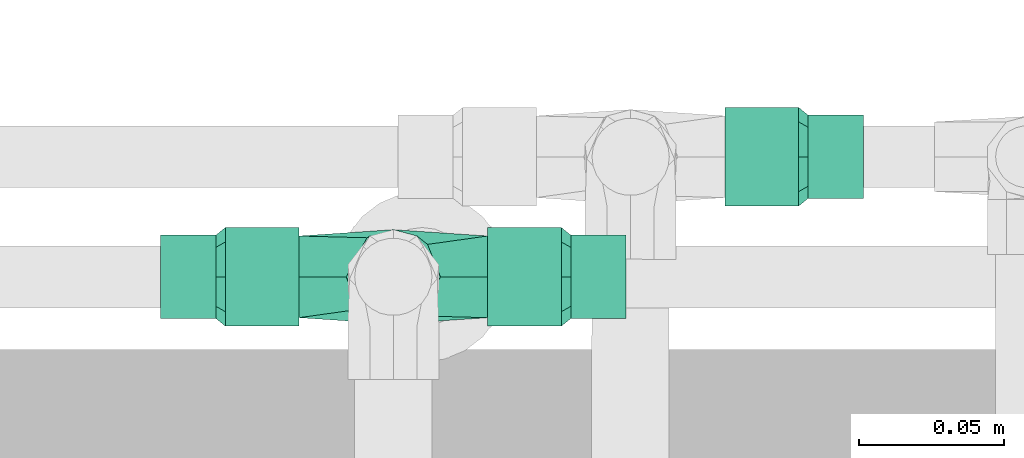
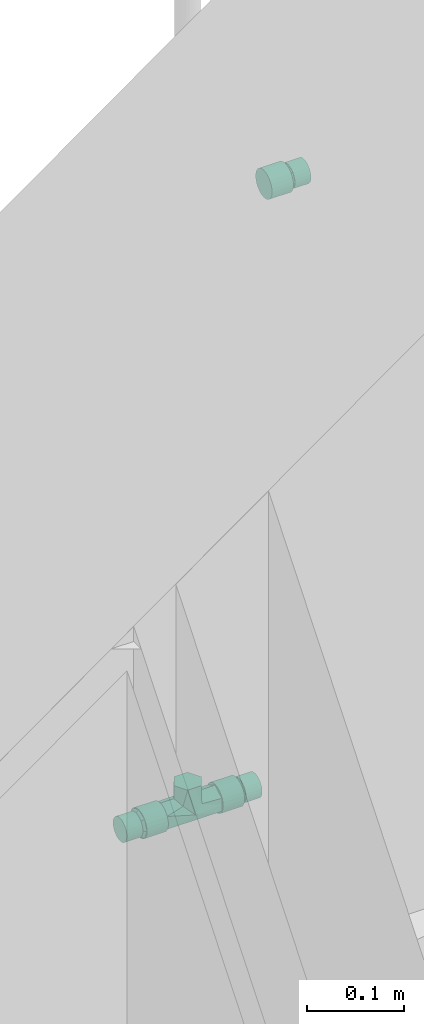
# One storey, part 29 of 41: 4 flow fittings.
"""IFC2X3 building model written with IfcOpenShell, lengths in millimetres."""

from ifc_helpers import new_model, entity, si_unit, converted_unit, derived_unit, direction, frame, origin, place, context, subcontext, project, spatial, faceted_brep, source, transform, mapped, type_object, type_shapes, element, save


model = new_model("IFC2X3")

# Units and contexts
model_context = context("Model", 3, precision=0.01, world=origin(), true_north=direction((6.12303176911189e-17, 1.0)))
body_context = subcontext(model_context, "Body", "Model", "MODEL_VIEW")
ifc_project = project(units=[si_unit("LENGTHUNIT", "METRE", prefix="MILLI"), si_unit("AREAUNIT", "SQUARE_METRE"), si_unit("VOLUMEUNIT", "CUBIC_METRE"), converted_unit("PLANEANGLEUNIT", "DEGREE", entity("IfcRatioMeasure", 0.0174532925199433), si_unit("PLANEANGLEUNIT", "RADIAN"), dimensions=[0, 0, 0, 0, 0, 0, 0]), si_unit("MASSUNIT", "GRAM", prefix="KILO"), derived_unit("MASSDENSITYUNIT", [(si_unit("MASSUNIT", "GRAM", prefix="KILO"), 1), (si_unit("LENGTHUNIT", "METRE"), -3)]), si_unit("TIMEUNIT", "SECOND"), si_unit("FREQUENCYUNIT", "HERTZ"), si_unit("THERMODYNAMICTEMPERATUREUNIT", "DEGREE_CELSIUS"), derived_unit("THERMALTRANSMITTANCEUNIT", [(si_unit("MASSUNIT", "GRAM", prefix="KILO"), 1), (si_unit("THERMODYNAMICTEMPERATUREUNIT", "KELVIN"), -1), (si_unit("TIMEUNIT", "SECOND"), -3)]), derived_unit("VOLUMETRICFLOWRATEUNIT", [(si_unit("LENGTHUNIT", "METRE"), 3), (si_unit("TIMEUNIT", "SECOND"), -1)]), si_unit("ELECTRICCURRENTUNIT", "AMPERE"), si_unit("ELECTRICVOLTAGEUNIT", "VOLT"), si_unit("POWERUNIT", "WATT"), si_unit("FORCEUNIT", "NEWTON", prefix="KILO"), si_unit("ILLUMINANCEUNIT", "LUX"), si_unit("LUMINOUSFLUXUNIT", "LUMEN"), si_unit("LUMINOUSINTENSITYUNIT", "CANDELA"), derived_unit("USERDEFINED", [(si_unit("MASSUNIT", "GRAM", prefix="KILO"), -1), (si_unit("LENGTHUNIT", "METRE"), -2), (si_unit("TIMEUNIT", "SECOND"), 3), (si_unit("LUMINOUSFLUXUNIT", "LUMEN"), 1)]), derived_unit("LINEARVELOCITYUNIT", [(si_unit("LENGTHUNIT", "METRE"), 1), (si_unit("TIMEUNIT", "SECOND"), -1)]), si_unit("PRESSUREUNIT", "PASCAL"), derived_unit("USERDEFINED", [(si_unit("LENGTHUNIT", "METRE"), -2), (si_unit("MASSUNIT", "GRAM", prefix="KILO"), 1), (si_unit("TIMEUNIT", "SECOND"), -2)])], contexts=[model_context])

# Site, building, storey
site_placement = place(None, origin())
site = spatial("IfcSite", under=ifc_project, at=site_placement, Name="Surface", CompositionType="ELEMENT")
building_placement = place(site_placement, origin())
building = spatial("IfcBuilding", under=site, at=building_placement, CompositionType="ELEMENT")
storey_placement = place(building_placement, frame((0.0, 0.0, 300.0)))
storey = spatial("IfcBuildingStorey", under=building, at=storey_placement, Name="F.F.L", CompositionType="ELEMENT", Elevation=300.0)

# Flow fittings
pipe_fitting_type_1 = type_object("IfcPipeFittingType", Name="Standard", PredefinedType="NOTDEFINED")
shared_shape_1 = source(origin(), body_context, "Body", "Brep", [
    faceted_brep([(-32.5373999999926, -12.2015250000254, -7.04455374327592), (-32.5373999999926, -16.2687000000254, 0.0), (-32.5373999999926, -14.167316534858, 3.63970292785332), (-32.5373999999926, -12.2015250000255, 7.04455374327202), (-32.5373999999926, -8.13435000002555, 14.0891074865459), (-32.5373999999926, 0.0, 14.089107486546), (-32.5373999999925, 8.13434999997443, 14.0891074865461), (-32.5373999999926, 12.2015249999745, 7.04455374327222), (-32.5373999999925, 16.2686999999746, 0.0), (-32.5373999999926, 12.2015249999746, -7.04455374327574), (-32.5373999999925, 8.1343499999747, -14.0891074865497), (-32.5373999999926, 0.0, -14.0891074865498), (-32.5373999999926, -8.13435000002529, -14.0891074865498), (32.5374000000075, 0.0, -14.0891074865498), (32.5374000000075, 8.13434999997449, -14.0891074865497), (32.5374000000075, 12.0659330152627, -7.27940594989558), (32.5374000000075, 16.2686999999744, 0.0), (32.5374000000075, 12.2015249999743, 7.04455374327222), (32.5374000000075, 8.13434999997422, 14.0891074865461), (32.5374000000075, 0.0, 14.089107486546), (32.5374000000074, -8.13435000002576, 14.0891074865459), (32.5374000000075, -12.2015250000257, 7.04455374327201), (32.5374000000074, -16.2687000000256, 0.0), (32.5374000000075, -14.1673163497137, -3.63970324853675), (32.5374000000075, -12.2015250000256, -7.04455374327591), (32.5374000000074, -8.13435000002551, -14.0891074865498), (14.037014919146, -14.0370149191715, 5.59698104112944), (11.8053298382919, -11.8053298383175, 11.1939620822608), (0.0, 0.0, 16.2686999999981), (-16.2687, -16.2687000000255, 0.0), (-12.6935009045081, -12.6935009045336, 6.7366009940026), (-12.3290155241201, -12.3290155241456, 7.42338584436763), (-9.11830180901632, -9.11830180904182, 13.4732019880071), (16.2687, -16.2687000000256, 0.0), (9.11830180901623, -9.11830180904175, -13.4732019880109), (12.329015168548, -12.3290151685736, -7.42338651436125), (0.0, 0.0, -16.2687000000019), (12.6935009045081, -12.6935009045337, -6.73660099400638), (-11.8053298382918, -11.8053298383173, -11.1939620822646), (-14.0370149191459, -14.0370149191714, -5.59698104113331), (8.13435000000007, -32.5374000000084, -14.0891074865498), (12.0659330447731, -32.5374000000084, -7.27940589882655), (16.2687000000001, -32.5374000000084, 0.0), (12.201525, -32.5374000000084, 7.04455374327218), (8.13434999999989, -32.5374000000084, 14.0891074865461), (0.0, -32.5374000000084, 14.089107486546), (-8.1343500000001, -32.5374000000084, 14.0891074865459), (-12.0659330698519, -32.5374000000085, 7.27940585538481), (-16.2687, -32.5374000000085, 0.0), (-12.2015249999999, -32.5374000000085, -7.04455374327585), (-8.13434999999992, -32.5374000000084, -14.0891074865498), (0.0, -32.5374000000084, -14.0891074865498)], [[[0, 1, 2, 3, 4, 5, 6, 7, 8, 9, 10, 11, 12]], [[13, 14, 15, 16, 17, 18, 19, 20, 21, 22, 23, 24, 25]], [[26, 22, 21]], [[27, 21, 20]], [[28, 20, 19, 18]], [[2, 29, 30, 31]], [[3, 32, 4]], [[22, 26, 33]], [[1, 29, 2]], [[21, 27, 26]], [[20, 28, 27]], [[32, 3, 31]], [[8, 7, 6, 18, 17, 16]], [[32, 5, 4]], [[32, 28, 5]], [[31, 3, 2]], [[6, 28, 18]], [[28, 6, 5]], [[14, 10, 9, 8, 16, 15]], [[34, 24, 35]], [[13, 25, 34]], [[10, 14, 36]], [[10, 36, 12, 11]], [[23, 33, 37, 35]], [[34, 36, 13]], [[34, 25, 24]], [[22, 33, 23]], [[12, 38, 0]], [[12, 36, 38]], [[35, 24, 23]], [[0, 39, 1]], [[36, 14, 13]], [[0, 38, 39]], [[1, 39, 29]], [[40, 41, 42, 43, 44, 45, 46, 47, 48, 49, 50, 51]], [[46, 32, 31, 30]], [[29, 48, 47]], [[47, 30, 29]], [[32, 46, 45]], [[27, 44, 43]], [[33, 43, 42]], [[46, 30, 47]], [[32, 45, 28]], [[43, 33, 26, 27]], [[28, 45, 44]], [[28, 44, 27]], [[40, 34, 35, 37]], [[33, 42, 41]], [[41, 37, 33]], [[34, 40, 51]], [[38, 50, 49]], [[29, 49, 48]], [[40, 37, 41]], [[34, 51, 36]], [[49, 29, 39, 38]], [[36, 51, 50]], [[36, 50, 38]]]),
])
type_shapes(pipe_fitting_type_1, [shared_shape_1])
flow_fitting_1_placement = place(storey_placement, frame((-4396.87517007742, 10850.8400891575, 383.200000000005), z_axis=(0.0, 1.0, 0.0), x_axis=(1.0, 0.0, 0.0)))
element("IfcFlowFitting", 1, at=flow_fitting_1_placement, inside=storey, type_object=pipe_fitting_type_1, Name="M_Tee - PVC - Sch 40:Standard", ObjectType="Standard", context=body_context, shape_type="MappedRepresentation", body=[
    mapped(shared_shape_1, transform((0.0, 0.0, 0.0), scale=1.0)),
])
pipe_fitting_type_2 = type_object("IfcPipeFittingType", Name="Standard", PredefinedType="NOTDEFINED")
shared_shape_2 = source(origin(), body_context, "Body", "Brep", [
    faceted_brep([(28.7020000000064, -10.1476894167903, 10.147689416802), (28.7020000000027, -11.1985170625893, 7.61076706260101), (28.7020000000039, -12.2493447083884, 5.07384470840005), (28.7020000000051, -13.3001723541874, 2.53692235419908), (28.7020000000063, -14.3510000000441, 0.0), (28.7020000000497, -12.8764694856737, -3.55983156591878), (28.7020000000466, -11.4019389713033, -7.11966313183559), (28.7020000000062, -10.1476894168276, -10.1476894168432), (28.7020000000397, -7.61076706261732, -11.1985170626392), (28.7020000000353, -5.073844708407, -12.2493447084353), (28.702000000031, -2.53692235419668, -13.3001723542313), (28.7020000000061, 0.0, -14.3510000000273), (28.7020000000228, 2.53692235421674, -13.3001723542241), (28.7020000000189, 5.07384470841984, -12.2493447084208), (28.702000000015, 7.61076706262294, -11.1985170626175), (28.7020000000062, 10.147689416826, -10.1476894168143), (28.7020000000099, 11.1985170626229, -7.61076706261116), (28.7020000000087, 12.2493447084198, -5.07384470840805), (28.7020000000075, 13.3001723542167, -2.53692235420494), (28.7020000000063, 14.3509999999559, 0.0), (28.7019999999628, 12.8764694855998, 3.5598315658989), (28.7019999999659, 11.4019389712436, 7.11966313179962), (28.7020000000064, 10.1476894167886, 10.1476894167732), (28.7019999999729, 7.61076706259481, 11.198517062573), (28.7019999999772, 5.07384470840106, 12.2493447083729), (28.7019999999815, 2.5369223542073, 13.3001723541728), (28.7020000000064, 0.0, 14.3509999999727), (28.7019999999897, -2.53692235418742, 13.30017235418), (28.7019999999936, -5.07384470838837, 12.2493447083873), (28.7019999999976, -7.61076706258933, 11.1985170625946), (25.4000000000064, 0.0, 17.0179999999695), (25.3999999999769, 3.00838580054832, 15.7718858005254), (25.3999999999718, 6.01677160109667, 14.5257716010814), (25.3999999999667, 9.02515740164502, 13.2796574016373), (25.4000000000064, 12.0335432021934, 12.0335432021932), (25.3999999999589, 13.2796574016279, 9.02515740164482), (25.3999999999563, 14.5257716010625, 6.01677160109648), (25.3999999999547, 15.2694416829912, 4.22139320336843), (25.4000000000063, 17.018, 0.0), (25.4000000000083, 15.2694417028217, -4.22139315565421), (25.4000000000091, 14.5257716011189, -6.01677160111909), (25.4000000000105, 13.2796574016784, -9.02515740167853), (25.4000000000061, 12.0335432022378, -12.033543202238), (25.4000000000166, 9.02515740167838, -13.2796574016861), (25.4000000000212, 6.01677160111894, -14.5257716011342), (25.4000000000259, 3.00838580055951, -15.7718858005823), (25.4000000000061, 0.0, -17.0180000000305), (25.4000000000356, -3.00838580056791, -15.7718858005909), (25.4000000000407, -6.0167716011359, -14.5257716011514), (25.4000000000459, -9.02515740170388, -13.2796574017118), (25.4000000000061, -12.0335432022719, -12.0335432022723), (25.4000000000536, -13.279657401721, -9.02515740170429), (25.4000000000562, -14.5257716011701, -6.01677160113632), (25.4000000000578, -15.2694416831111, -4.22139320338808), (25.4000000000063, -17.018, 0.0), (25.4000000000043, -15.2694417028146, 4.22139315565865), (25.4000000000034, -14.5257716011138, 6.01677160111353), (25.400000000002, -13.2796574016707, 9.02515740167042), (25.4000000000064, -12.0335432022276, 12.0335432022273), (25.399999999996, -9.0251574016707, 13.2796574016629), (25.3999999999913, -6.01677160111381, 14.5257716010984), (25.3999999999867, -3.00838580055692, 15.771885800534)], [[[0, 1, 2, 3, 4, 5, 6, 7, 8, 9, 10, 11, 12, 13, 14, 15, 16, 17, 18, 19, 20, 21, 22, 23, 24, 25, 26, 27, 28, 29]], [[30, 31, 32, 33, 34, 35, 36, 37, 38, 39, 40, 41, 42, 43, 44, 45, 46, 47, 48, 49, 50, 51, 52, 53, 54, 55, 56, 57, 58, 59, 60, 61]], [[4, 54, 53, 52, 51, 50, 7, 6, 5]], [[49, 48, 47, 46, 11, 10, 9, 8, 7, 50]], [[17, 16, 15, 42, 41, 40, 39, 38, 19, 18]], [[12, 11, 46, 45, 44, 43, 42, 15, 14, 13]], [[19, 38, 37, 36, 35, 34, 22, 21, 20]], [[33, 32, 31, 30, 26, 25, 24, 23, 22, 34]], [[2, 1, 0, 58, 57, 56, 55, 54, 4, 3]], [[27, 26, 30, 61, 60, 59, 58, 0, 29, 28]]]),
    faceted_brep([(47.7520000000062, -10.1476894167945, -10.1476894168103), (47.7520000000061, -7.17549999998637, -12.4283305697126), (47.7520000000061, -3.71431211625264, -13.8620015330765), (47.7520000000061, 0.0, -14.3510000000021), (47.7520000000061, 3.7143121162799, -13.8620015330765), (47.7520000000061, 7.17550000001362, -12.4283305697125), (47.7520000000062, 10.1476894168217, -10.1476894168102), (47.7520000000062, 12.4283305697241, -7.17550000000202), (47.7520000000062, 13.862001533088, -3.7143121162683), (47.7520000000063, 14.3510000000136, 0.0), (47.7520000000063, 13.862001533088, 3.71431211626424), (47.7520000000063, 12.428330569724, 7.17549999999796), (47.7520000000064, 10.1476894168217, 10.1476894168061), (47.7520000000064, 7.17550000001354, 12.4283305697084), (47.7520000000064, 3.71431211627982, 13.8620015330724), (47.7520000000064, 0.0, 14.3509999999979), (47.7520000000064, -3.71431211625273, 13.8620015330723), (47.7520000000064, -7.17549999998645, 12.4283305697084), (47.7520000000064, -10.1476894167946, 10.1476894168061), (47.7520000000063, -12.4283305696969, 7.17549999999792), (47.7520000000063, -13.8620015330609, 3.7143121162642), (47.7520000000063, -14.3509999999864, 0.0), (47.7520000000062, -13.8620015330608, -3.71431211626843), (47.7520000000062, -12.4283305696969, -7.17550000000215), (28.7020000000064, 0.0, 14.3509999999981), (28.7020000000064, 3.71431211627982, 13.8620015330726), (28.7020000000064, 7.17550000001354, 12.4283305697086), (28.7020000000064, 10.1476894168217, 10.1476894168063), (28.7020000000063, 12.428330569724, 7.17549999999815), (28.7020000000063, 13.862001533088, 3.71431211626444), (28.7020000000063, 14.3510000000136, 0.0), (28.7020000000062, 13.862001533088, -3.7143121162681), (28.7020000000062, 12.4283305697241, -7.17550000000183), (28.7020000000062, 10.1476894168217, -10.14768941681), (28.7020000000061, 7.17550000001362, -12.4283305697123), (28.7020000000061, 3.7143121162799, -13.8620015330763), (28.7020000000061, 0.0, -14.3510000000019), (28.7020000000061, -3.71431211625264, -13.8620015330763), (28.7020000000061, -7.17549999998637, -12.4283305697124), (28.7020000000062, -10.1476894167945, -10.1476894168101), (28.7020000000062, -12.4283305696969, -7.17550000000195), (28.7020000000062, -13.8620015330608, -3.71431211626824), (28.7020000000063, -14.3509999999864, 0.0), (28.7020000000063, -13.8620015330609, 3.71431211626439), (28.7020000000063, -12.4283305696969, 7.17549999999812), (28.7020000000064, -10.1476894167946, 10.1476894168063), (28.7020000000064, -7.17549999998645, 12.4283305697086), (28.7020000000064, -3.71431211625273, 13.8620015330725)], [[[0, 1, 2, 3, 4, 5, 6, 7, 8, 9, 10, 11, 12, 13, 14, 15, 16, 17, 18, 19, 20, 21, 22, 23]], [[24, 25, 26, 27, 28, 29, 30, 31, 32, 33, 34, 35, 36, 37, 38, 39, 40, 41, 42, 43, 44, 45, 46, 47]], [[30, 9, 8, 31]], [[31, 8, 7, 32]], [[34, 33, 6, 5]], [[6, 33, 32, 7]], [[35, 34, 5, 4]], [[35, 4, 3, 36]], [[36, 3, 2, 37]], [[37, 2, 1, 38]], [[22, 21, 42, 41]], [[38, 1, 0, 39]], [[0, 23, 40, 39]], [[23, 22, 41, 40]], [[42, 21, 20, 43]], [[43, 20, 19, 44]], [[46, 45, 18, 17]], [[18, 45, 44, 19]], [[47, 46, 17, 16]], [[47, 16, 15, 24]], [[27, 26, 13, 12]], [[29, 28, 11, 10]], [[12, 11, 28, 27]], [[30, 29, 10, 9]], [[13, 26, 25, 14]], [[24, 15, 14, 25]]]),
    faceted_brep([(25.4000000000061, -12.0335432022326, -12.033543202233), (25.4000000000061, -8.50899999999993, -14.7380203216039), (25.4000000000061, -4.40458250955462, -16.4381257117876), (25.4000000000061, 0.0, -17.0180000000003), (25.4000000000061, 4.40458250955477, -16.4381257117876), (25.4000000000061, 8.50900000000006, -14.7380203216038), (25.4000000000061, 12.0335432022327, -12.0335432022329), (25.4000000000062, 14.7380203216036, -8.50900000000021), (25.4000000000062, 16.4381257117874, -4.4045825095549), (25.4000000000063, 17.018, 0.0), (25.4000000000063, 16.4381257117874, 4.40458250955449), (25.4000000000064, 14.7380203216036, 8.50899999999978), (25.4000000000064, 12.0335432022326, 12.0335432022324), (25.4000000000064, 8.50899999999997, 14.7380203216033), (25.4000000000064, 4.40458250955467, 16.4381257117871), (25.4000000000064, 0.0, 17.0179999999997), (25.4000000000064, -4.40458250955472, 16.4381257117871), (25.4000000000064, -8.50900000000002, 14.7380203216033), (25.4000000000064, -12.0335432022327, 12.0335432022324), (25.4000000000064, -14.7380203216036, 8.50899999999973), (25.4000000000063, -16.4381257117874, 4.40458250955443), (25.4000000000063, -17.018, 0.0), (25.4000000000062, -16.4381257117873, -4.40458250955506), (25.4000000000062, -14.7380203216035, -8.50900000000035), (0.0, -4.40458250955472, 16.4381257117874), (0.0, 0.0, 17.018), (0.0, 4.40458250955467, 16.4381257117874), (0.0, 8.50899999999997, 14.7380203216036), (0.0, 12.0335432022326, 12.0335432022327), (0.0, 14.7380203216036, 8.50900000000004), (0.0, 16.4381257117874, 4.40458250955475), (0.0, 17.018, 0.0), (0.0, 16.4381257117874, -4.40458250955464), (0.0, 14.7380203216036, -8.50899999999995), (0.0, 12.0335432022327, -12.0335432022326), (0.0, 8.50900000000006, -14.7380203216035), (0.0, 4.40458250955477, -16.4381257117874), (0.0, 0.0, -17.018), (0.0, -4.40458250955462, -16.4381257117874), (0.0, -8.50899999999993, -14.7380203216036), (0.0, -12.0335432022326, -12.0335432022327), (0.0, -14.7380203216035, -8.50900000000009), (0.0, -16.4381257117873, -4.4045825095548), (0.0, -17.018, 0.0), (0.0, -16.4381257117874, 4.40458250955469), (0.0, -14.7380203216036, 8.509), (0.0, -12.0335432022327, 12.0335432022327), (0.0, -8.50900000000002, 14.7380203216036)], [[[0, 1, 2, 3, 4, 5, 6, 7, 8, 9, 10, 11, 12, 13, 14, 15, 16, 17, 18, 19, 20, 21, 22, 23]], [[24, 25, 26, 27, 28, 29, 30, 31, 32, 33, 34, 35, 36, 37, 38, 39, 40, 41, 42, 43, 44, 45, 46, 47]], [[31, 9, 8, 32]], [[32, 8, 7, 33]], [[35, 34, 6, 5]], [[6, 34, 33, 7]], [[36, 35, 5, 4]], [[3, 37, 36, 4]], [[39, 38, 2, 1]], [[39, 1, 0, 40]], [[42, 41, 23, 22]], [[0, 23, 41, 40]], [[43, 42, 22, 21]], [[38, 37, 3, 2]], [[43, 21, 20, 44]], [[44, 20, 19, 45]], [[47, 46, 18, 17]], [[18, 46, 45, 19]], [[24, 47, 17, 16]], [[15, 25, 24, 16]], [[27, 26, 14, 13]], [[27, 13, 12, 28]], [[30, 29, 11, 10]], [[12, 11, 29, 28]], [[31, 30, 10, 9]], [[14, 26, 25, 15]]]),
])
type_shapes(pipe_fitting_type_2, [shared_shape_2])
flow_fitting_2_placement = place(storey_placement, frame((-4429.4125700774, 10850.8400891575, 383.200000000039), z_axis=(0.0, 0.0, 1.0), x_axis=(-1.0, 0.0, 0.0)))
element("IfcFlowFitting", 2, at=flow_fitting_2_placement, inside=storey, type_object=pipe_fitting_type_2, Name="M_Coupling Reducing - PVC - Sch 40:Standard", ObjectType="Standard", context=body_context, shape_type="MappedRepresentation", body=[
    mapped(shared_shape_2, transform((0.0, 0.0, 0.0), scale=1.0)),
])
pipe_fitting_type_3 = type_object("IfcPipeFittingType", Name="Standard", PredefinedType="NOTDEFINED")
shared_shape_3 = source(origin(), body_context, "Body", "Brep", [
    faceted_brep([(28.7020000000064, -10.1476894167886, 10.1476894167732), (28.7019999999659, -11.4019389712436, 7.11966313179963), (28.7019999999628, -12.8764694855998, 3.5598315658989), (28.7020000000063, -14.3510000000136, 0.0), (28.7020000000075, -13.3001723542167, -2.53692235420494), (28.7020000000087, -12.2493447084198, -5.07384470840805), (28.7020000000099, -11.1985170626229, -7.61076706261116), (28.7020000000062, -10.147689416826, -10.1476894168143), (28.702000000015, -7.61076706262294, -11.1985170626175), (28.7020000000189, -5.07384470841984, -12.2493447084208), (28.7020000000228, -2.53692235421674, -13.3001723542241), (28.7020000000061, 0.0, -14.3510000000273), (28.702000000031, 2.53692235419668, -13.3001723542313), (28.7020000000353, 5.073844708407, -12.2493447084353), (28.7020000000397, 7.61076706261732, -11.1985170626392), (28.7020000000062, 10.1476894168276, -10.1476894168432), (28.7020000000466, 11.4019389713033, -7.11966313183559), (28.7020000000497, 12.8764694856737, -3.55983156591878), (28.7020000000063, 14.3509999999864, 0.0), (28.7020000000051, 13.3001723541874, 2.53692235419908), (28.7020000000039, 12.2493447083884, 5.07384470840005), (28.7020000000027, 11.1985170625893, 7.61076706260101), (28.7020000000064, 10.1476894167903, 10.147689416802), (28.7019999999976, 7.61076706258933, 11.1985170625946), (28.7019999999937, 5.07384470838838, 12.2493447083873), (28.7019999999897, 2.53692235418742, 13.30017235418), (28.7020000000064, 0.0, 14.3509999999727), (28.7019999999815, -2.5369223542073, 13.3001723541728), (28.7019999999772, -5.07384470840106, 12.2493447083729), (28.7019999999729, -7.61076706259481, 11.198517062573), (25.4000000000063, -17.0179999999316, 0.0), (25.3999999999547, -15.2694416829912, 4.22139320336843), (25.3999999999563, -14.5257716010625, 6.01677160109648), (25.3999999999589, -13.2796574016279, 9.02515740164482), (25.4000000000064, -12.0335432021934, 12.0335432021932), (25.3999999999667, -9.02515740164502, 13.2796574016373), (25.3999999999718, -6.01677160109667, 14.5257716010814), (25.3999999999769, -3.00838580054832, 15.7718858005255), (25.4000000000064, 0.0, 17.0179999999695), (25.3999999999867, 3.00838580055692, 15.771885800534), (25.3999999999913, 6.01677160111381, 14.5257716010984), (25.3999999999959, 9.0251574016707, 13.2796574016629), (25.4000000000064, 12.0335432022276, 12.0335432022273), (25.400000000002, 13.2796574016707, 9.02515740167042), (25.4000000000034, 14.5257716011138, 6.01677160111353), (25.4000000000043, 15.2694417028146, 4.22139315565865), (25.4000000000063, 17.0180000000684, 0.0), (25.4000000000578, 15.2694416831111, -4.22139320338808), (25.4000000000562, 14.5257716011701, -6.01677160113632), (25.4000000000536, 13.279657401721, -9.02515740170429), (25.4000000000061, 12.0335432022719, -12.0335432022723), (25.4000000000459, 9.02515740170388, -13.2796574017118), (25.4000000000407, 6.0167716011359, -14.5257716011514), (25.4000000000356, 3.00838580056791, -15.7718858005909), (25.4000000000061, 0.0, -17.0180000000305), (25.4000000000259, -3.00838580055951, -15.7718858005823), (25.4000000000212, -6.01677160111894, -14.5257716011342), (25.4000000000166, -9.02515740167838, -13.2796574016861), (25.4000000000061, -12.0335432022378, -12.033543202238), (25.4000000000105, -13.2796574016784, -9.02515740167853), (25.4000000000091, -14.5257716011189, -6.01677160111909), (25.4000000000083, -15.2694417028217, -4.22139315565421)], [[[0, 1, 2, 3, 4, 5, 6, 7, 8, 9, 10, 11, 12, 13, 14, 15, 16, 17, 18, 19, 20, 21, 22, 23, 24, 25, 26, 27, 28, 29]], [[30, 31, 32, 33, 34, 35, 36, 37, 38, 39, 40, 41, 42, 43, 44, 45, 46, 47, 48, 49, 50, 51, 52, 53, 54, 55, 56, 57, 58, 59, 60, 61]], [[17, 16, 15, 50, 49, 48, 47, 46, 18]], [[13, 12, 11, 54, 53, 52, 51, 50, 15, 14]], [[61, 60, 59, 58, 7, 6, 5, 4, 3, 30]], [[54, 11, 10, 9, 8, 7, 58, 57, 56, 55]], [[2, 1, 0, 34, 33, 32, 31, 30, 3]], [[28, 27, 26, 38, 37, 36, 35, 34, 0, 29]], [[45, 44, 43, 42, 22, 21, 20, 19, 18, 46]], [[38, 26, 25, 24, 23, 22, 42, 41, 40, 39]]]),
    faceted_brep([(47.7520000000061, 3.71431211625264, -13.8620015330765), (47.7520000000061, 7.17549999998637, -12.4283305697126), (47.7520000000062, 10.1476894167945, -10.1476894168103), (47.7520000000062, 12.4283305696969, -7.17550000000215), (47.7520000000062, 13.8620015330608, -3.71431211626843), (47.7520000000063, 14.3509999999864, 0.0), (47.7520000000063, 13.8620015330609, 3.7143121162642), (47.7520000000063, 12.4283305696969, 7.17549999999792), (47.7520000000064, 10.1476894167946, 10.1476894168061), (47.7520000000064, 7.17549999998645, 12.4283305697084), (47.7520000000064, 3.71431211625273, 13.8620015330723), (47.7520000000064, 0.0, 14.3509999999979), (47.7520000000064, -3.71431211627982, 13.8620015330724), (47.7520000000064, -7.17550000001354, 12.4283305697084), (47.7520000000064, -10.1476894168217, 10.1476894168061), (47.7520000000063, -12.428330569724, 7.17549999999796), (47.7520000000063, -13.862001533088, 3.71431211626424), (47.7520000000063, -14.3510000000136, 0.0), (47.7520000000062, -13.862001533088, -3.7143121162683), (47.7520000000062, -12.4283305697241, -7.17550000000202), (47.7520000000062, -10.1476894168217, -10.1476894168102), (47.7520000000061, -7.17550000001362, -12.4283305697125), (47.7520000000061, -3.7143121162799, -13.8620015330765), (47.7520000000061, 0.0, -14.3510000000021), (28.7020000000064, 3.71431211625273, 13.8620015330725), (28.7020000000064, 7.17549999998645, 12.4283305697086), (28.7020000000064, 10.1476894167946, 10.1476894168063), (28.7020000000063, 12.4283305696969, 7.17549999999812), (28.7020000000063, 13.8620015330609, 3.71431211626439), (28.7020000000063, 14.3509999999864, 0.0), (28.7020000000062, 13.8620015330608, -3.71431211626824), (28.7020000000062, 12.4283305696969, -7.17550000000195), (28.7020000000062, 10.1476894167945, -10.1476894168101), (28.7020000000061, 7.17549999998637, -12.4283305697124), (28.7020000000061, 3.71431211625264, -13.8620015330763), (28.7020000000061, 0.0, -14.3510000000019), (28.7020000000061, -3.7143121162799, -13.8620015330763), (28.7020000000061, -7.17550000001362, -12.4283305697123), (28.7020000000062, -10.1476894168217, -10.14768941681), (28.7020000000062, -12.4283305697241, -7.17550000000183), (28.7020000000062, -13.862001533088, -3.7143121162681), (28.7020000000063, -14.3510000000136, 0.0), (28.7020000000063, -13.862001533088, 3.71431211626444), (28.7020000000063, -12.428330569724, 7.17549999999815), (28.7020000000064, -10.1476894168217, 10.1476894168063), (28.7020000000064, -7.17550000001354, 12.4283305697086), (28.7020000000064, -3.71431211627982, 13.8620015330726), (28.7020000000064, 0.0, 14.3509999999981)], [[[0, 1, 2, 3, 4, 5, 6, 7, 8, 9, 10, 11, 12, 13, 14, 15, 16, 17, 18, 19, 20, 21, 22, 23]], [[24, 25, 26, 27, 28, 29, 30, 31, 32, 33, 34, 35, 36, 37, 38, 39, 40, 41, 42, 43, 44, 45, 46, 47]], [[40, 18, 17, 41]], [[39, 19, 18, 40]], [[21, 20, 38, 37]], [[39, 38, 20, 19]], [[22, 21, 37, 36]], [[23, 22, 36, 35]], [[34, 0, 23, 35]], [[33, 1, 0, 34]], [[30, 29, 5, 4]], [[32, 2, 1, 33]], [[31, 3, 2, 32]], [[31, 30, 4, 3]], [[28, 6, 5, 29]], [[27, 7, 6, 28]], [[9, 8, 26, 25]], [[27, 26, 8, 7]], [[10, 9, 25, 24]], [[11, 10, 24, 47]], [[13, 45, 44, 14]], [[15, 43, 42, 16]], [[44, 43, 15, 14]], [[16, 42, 41, 17]], [[12, 46, 45, 13]], [[46, 12, 11, 47]]]),
    faceted_brep([(25.4000000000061, 4.40458250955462, -16.4381257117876), (25.4000000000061, 8.50899999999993, -14.7380203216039), (25.4000000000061, 12.0335432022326, -12.033543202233), (25.4000000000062, 14.7380203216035, -8.50900000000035), (25.4000000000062, 16.4381257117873, -4.40458250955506), (25.4000000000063, 17.018, 0.0), (25.4000000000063, 16.4381257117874, 4.40458250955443), (25.4000000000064, 14.7380203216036, 8.50899999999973), (25.4000000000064, 12.0335432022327, 12.0335432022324), (25.4000000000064, 8.50900000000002, 14.7380203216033), (25.4000000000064, 4.40458250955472, 16.4381257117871), (25.4000000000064, 0.0, 17.0179999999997), (25.4000000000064, -4.40458250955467, 16.4381257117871), (25.4000000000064, -8.50899999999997, 14.7380203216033), (25.4000000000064, -12.0335432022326, 12.0335432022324), (25.4000000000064, -14.7380203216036, 8.50899999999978), (25.4000000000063, -16.4381257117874, 4.40458250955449), (25.4000000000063, -17.018, 0.0), (25.4000000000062, -16.4381257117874, -4.4045825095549), (25.4000000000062, -14.7380203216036, -8.50900000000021), (25.4000000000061, -12.0335432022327, -12.0335432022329), (25.4000000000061, -8.50900000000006, -14.7380203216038), (25.4000000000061, -4.40458250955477, -16.4381257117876), (25.4000000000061, 0.0, -17.0180000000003), (0.0, 12.0335432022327, 12.0335432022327), (0.0, 14.7380203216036, 8.509), (0.0, 16.4381257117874, 4.40458250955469), (0.0, 17.018, 0.0), (0.0, 16.4381257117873, -4.4045825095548), (0.0, 14.7380203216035, -8.50900000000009), (0.0, 12.0335432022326, -12.0335432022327), (0.0, 8.50899999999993, -14.7380203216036), (0.0, 4.40458250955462, -16.4381257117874), (0.0, 0.0, -17.018), (0.0, -4.40458250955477, -16.4381257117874), (0.0, -8.50900000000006, -14.7380203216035), (0.0, -12.0335432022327, -12.0335432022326), (0.0, -14.7380203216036, -8.50899999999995), (0.0, -16.4381257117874, -4.40458250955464), (0.0, -17.018, 0.0), (0.0, -16.4381257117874, 4.40458250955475), (0.0, -14.7380203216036, 8.50900000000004), (0.0, -12.0335432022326, 12.0335432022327), (0.0, -8.50899999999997, 14.7380203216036), (0.0, -4.40458250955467, 16.4381257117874), (0.0, 0.0, 17.018), (0.0, 4.40458250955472, 16.4381257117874), (0.0, 8.50900000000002, 14.7380203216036)], [[[0, 1, 2, 3, 4, 5, 6, 7, 8, 9, 10, 11, 12, 13, 14, 15, 16, 17, 18, 19, 20, 21, 22, 23]], [[24, 25, 26, 27, 28, 29, 30, 31, 32, 33, 34, 35, 36, 37, 38, 39, 40, 41, 42, 43, 44, 45, 46, 47]], [[38, 18, 17, 39]], [[37, 19, 18, 38]], [[21, 20, 36, 35]], [[37, 36, 20, 19]], [[22, 21, 35, 34]], [[22, 34, 33, 23]], [[0, 32, 31, 1]], [[30, 2, 1, 31]], [[3, 29, 28, 4]], [[30, 29, 3, 2]], [[4, 28, 27, 5]], [[0, 23, 33, 32]], [[26, 6, 5, 27]], [[25, 7, 6, 26]], [[9, 8, 24, 47]], [[25, 24, 8, 7]], [[10, 9, 47, 46]], [[10, 46, 45, 11]], [[12, 44, 43, 13]], [[42, 14, 13, 43]], [[15, 41, 40, 16]], [[42, 41, 15, 14]], [[16, 40, 39, 17]], [[11, 45, 44, 12]]]),
])
type_shapes(pipe_fitting_type_3, [shared_shape_3])
for number, where, name in (
    (3, (-4282.48781810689, 10892.2567375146, 1100.0), "M_Coupling Reducing - PVC - Sch 40:Standard"),
    (4, (-4364.33777007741, 10850.8400891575, 383.200000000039), "M_Coupling Reducing - PVC - Sch 40:Standard"),
):
    element("IfcFlowFitting", number, at=place(storey_placement, frame(where)), inside=storey, type_object=pipe_fitting_type_3, Name=name, ObjectType="Standard", context=body_context, shape_type="MappedRepresentation", body=[
        mapped(shared_shape_3, transform((0.0, 0.0, 0.0), scale=1.0)),
    ])

save(model, "model.ifc")
